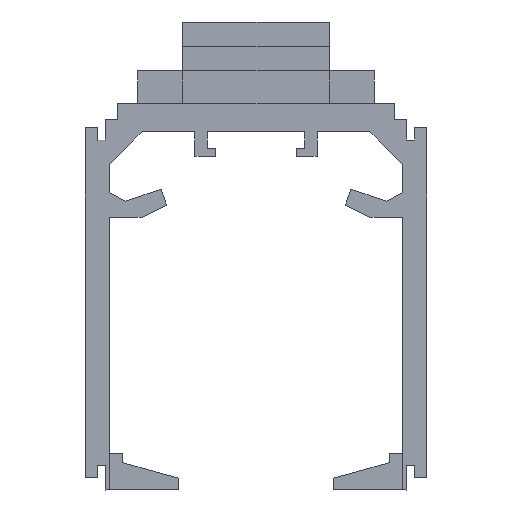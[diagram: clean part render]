
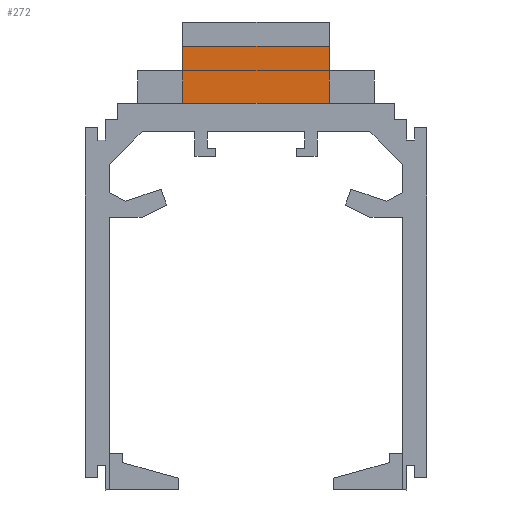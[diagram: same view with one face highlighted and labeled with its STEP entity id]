
A CAD part, left-side view. The second image highlights one B-rep face of the part: STEP entity #272.
In plain terms, the highlighted planar face has unit normal (-1, 0, 0).
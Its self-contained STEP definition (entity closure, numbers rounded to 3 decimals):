
#272=ADVANCED_FACE('',(#653),#654,.T.);
#653=FACE_OUTER_BOUND('',#1148,.T.);
#654=PLANE('',#1149);
#1148=EDGE_LOOP('',(#1887,#1888,#1889,#1890));
#1149=AXIS2_PLACEMENT_3D('',#1891,#1892,#1893);
#1887=ORIENTED_EDGE('',*,*,#3170,.T.);
#1888=ORIENTED_EDGE('',*,*,#3189,.F.);
#1889=ORIENTED_EDGE('',*,*,#3177,.F.);
#1890=ORIENTED_EDGE('',*,*,#3187,.F.);
#1891=CARTESIAN_POINT('',(126.5,30.0,55.5));
#1892=DIRECTION('',(-1.0,0.,0.));
#1893=DIRECTION('',(0.0,0.,-1.0));
#3170=EDGE_CURVE('',#3841,#3839,#3842,.T.);
#3177=EDGE_CURVE('',#3852,#3854,#3855,.T.);
#3187=EDGE_CURVE('',#3841,#3852,#3867,.T.);
#3189=EDGE_CURVE('',#3854,#3839,#3869,.T.);
#3839=VERTEX_POINT('',#4834);
#3841=VERTEX_POINT('',#4837);
#3842=LINE('',#4838,#4839);
#3852=VERTEX_POINT('',#4853);
#3854=VERTEX_POINT('',#4856);
#3855=LINE('',#4857,#4858);
#3867=LINE('',#4876,#4877);
#3869=LINE('',#4879,#4880);
#4834=CARTESIAN_POINT('',(126.5,30.0,47.5));
#4837=CARTESIAN_POINT('',(126.5,30.0,54.5));
#4838=CARTESIAN_POINT('',(126.5,30.0,55.5));
#4839=VECTOR('',#5910,1.0);
#4853=CARTESIAN_POINT('',(126.5,12.0,54.5));
#4856=CARTESIAN_POINT('',(126.5,12.0,47.5));
#4857=CARTESIAN_POINT('',(126.5,12.0,55.5));
#4858=VECTOR('',#5916,1.0);
#4876=CARTESIAN_POINT('',(126.5,30.0,54.5));
#4877=VECTOR('',#5923,1.0);
#4879=CARTESIAN_POINT('',(126.5,17.25,47.5));
#4880=VECTOR('',#5924,1.0);
#5910=DIRECTION('',(0.0,0.,-1.0));
#5916=DIRECTION('',(0.0,0.,-1.0));
#5923=DIRECTION('',(0.,-1.0,0.));
#5924=DIRECTION('',(0.,1.0,0.0));
